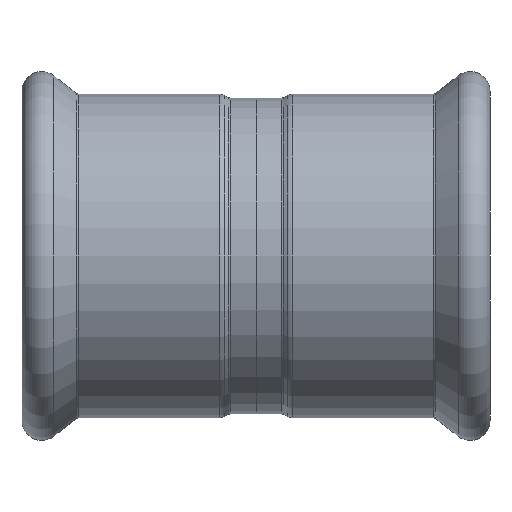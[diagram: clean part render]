
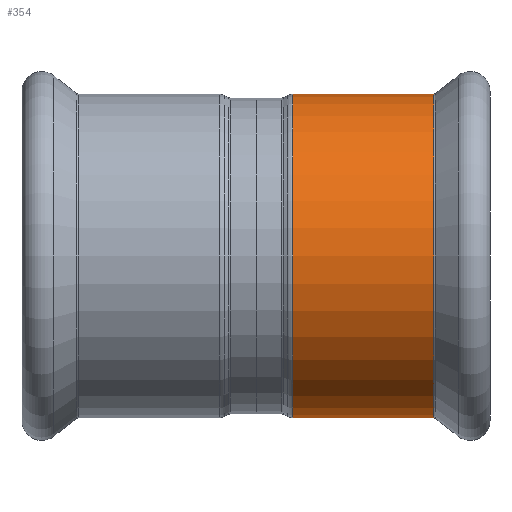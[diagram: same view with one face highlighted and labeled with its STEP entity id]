
A CAD part, front view. The second image highlights one B-rep face of the part: STEP entity #354.
In plain terms, the highlighted cylindrical face has radius 28.7 mm (diameter 57.4 mm), a partial arc.
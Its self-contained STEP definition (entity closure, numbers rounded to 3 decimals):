
#9 = VERTEX_POINT ( 'NONE', #1718 ) ;
#41 = DIRECTION ( 'NONE',  ( 0., 0., 1. ) ) ;
#165 = VECTOR ( 'NONE', #382, 1000. ) ;
#186 = VERTEX_POINT ( 'NONE', #364 ) ;
#218 = CIRCLE ( 'NONE', #1992, 28.7 ) ;
#318 = DIRECTION ( 'NONE',  ( -1., 0., 0. ) ) ;
#354 = ADVANCED_FACE ( 'NONE', ( #616 ), #373, .T. ) ;
#364 = CARTESIAN_POINT ( 'NONE',  ( 31.503, 0., -28.7 ) ) ;
#373 = CYLINDRICAL_SURFACE ( 'NONE', #1144, 28.7 ) ;
#382 = DIRECTION ( 'NONE',  ( -1., 0., 0. ) ) ;
#480 = DIRECTION ( 'NONE',  ( 0., 0., 1. ) ) ;
#500 = ORIENTED_EDGE ( 'NONE', *, *, #1063, .F. ) ;
#521 = EDGE_LOOP ( 'NONE', ( #718, #1513, #1405, #500 ) ) ;
#557 = CARTESIAN_POINT ( 'NONE',  ( -47.221, 0., 0. ) ) ;
#616 = FACE_OUTER_BOUND ( 'NONE', #521, .T. ) ;
#625 = EDGE_CURVE ( 'NONE', #9, #842, #1387, .T. ) ;
#686 = CARTESIAN_POINT ( 'NONE',  ( -47.221, 0., -28.7 ) ) ;
#718 = ORIENTED_EDGE ( 'NONE', *, *, #1370, .F. ) ;
#826 = CARTESIAN_POINT ( 'NONE',  ( 6.5, 0., 28.7 ) ) ;
#842 = VERTEX_POINT ( 'NONE', #826 ) ;
#900 = DIRECTION ( 'NONE',  ( 0., 0., 1. ) ) ;
#998 = EDGE_CURVE ( 'NONE', #186, #9, #1168, .T. ) ;
#1036 = DIRECTION ( 'NONE',  ( -1., 0., 0. ) ) ;
#1063 = EDGE_CURVE ( 'NONE', #1216, #842, #218, .T. ) ;
#1111 = LINE ( 'NONE', #686, #165 ) ;
#1144 = AXIS2_PLACEMENT_3D ( 'NONE', #557, #1036, #900 ) ;
#1168 = CIRCLE ( 'NONE', #1796, 28.7 ) ;
#1216 = VERTEX_POINT ( 'NONE', #1867 ) ;
#1229 = CARTESIAN_POINT ( 'NONE',  ( -47.221, 0., 28.7 ) ) ;
#1281 = VECTOR ( 'NONE', #1712, 1000. ) ;
#1370 = EDGE_CURVE ( 'NONE', #186, #1216, #1111, .T. ) ;
#1387 = LINE ( 'NONE', #1229, #1281 ) ;
#1405 = ORIENTED_EDGE ( 'NONE', *, *, #625, .T. ) ;
#1513 = ORIENTED_EDGE ( 'NONE', *, *, #998, .T. ) ;
#1566 = DIRECTION ( 'NONE',  ( -1., 0., 0. ) ) ;
#1712 = DIRECTION ( 'NONE',  ( -1., 0., 0. ) ) ;
#1718 = CARTESIAN_POINT ( 'NONE',  ( 31.503, 0., 28.7 ) ) ;
#1747 = CARTESIAN_POINT ( 'NONE',  ( 6.5, 0., 0. ) ) ;
#1796 = AXIS2_PLACEMENT_3D ( 'NONE', #1861, #1566, #480 ) ;
#1861 = CARTESIAN_POINT ( 'NONE',  ( 31.503, 0., 0. ) ) ;
#1867 = CARTESIAN_POINT ( 'NONE',  ( 6.5, 0., -28.7 ) ) ;
#1992 = AXIS2_PLACEMENT_3D ( 'NONE', #1747, #318, #41 ) ;
